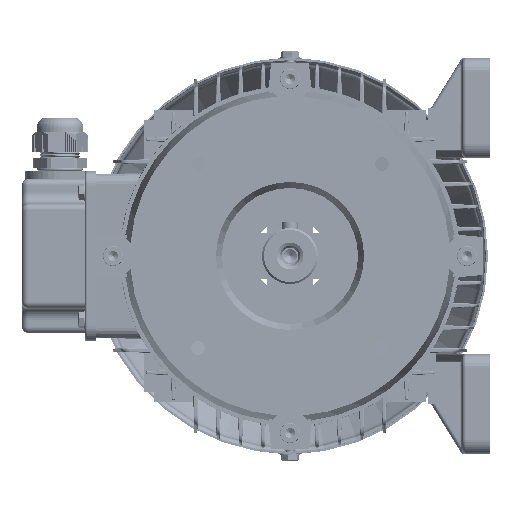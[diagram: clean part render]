
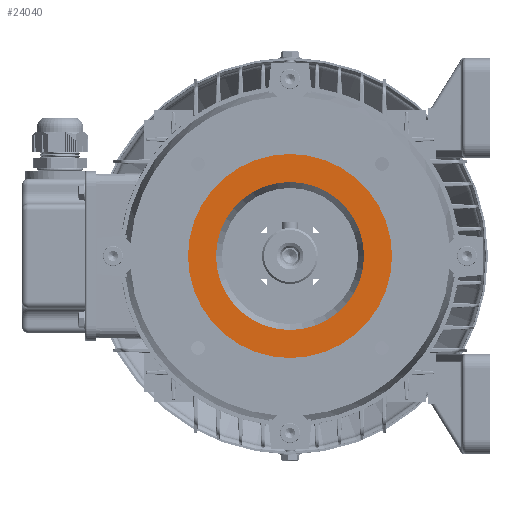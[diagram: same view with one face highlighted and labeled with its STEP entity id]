
A CAD part, left-side view. The second image highlights one B-rep face of the part: STEP entity #24040.
In plain terms, the highlighted planar face has unit normal (-1, 0, 0).
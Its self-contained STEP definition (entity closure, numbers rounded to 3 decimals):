
#1324 = EDGE_CURVE ( 'NONE', #60207, #51980, #54362, .T. ) ;
#5337 = AXIS2_PLACEMENT_3D ( 'NONE', #33558, #129376, #22804 ) ;
#6865 = AXIS2_PLACEMENT_3D ( 'NONE', #147103, #18954, #52770 ) ;
#7474 = VERTEX_POINT ( 'NONE', #21151 ) ;
#8114 = AXIS2_PLACEMENT_3D ( 'NONE', #149139, #78394, #148131 ) ;
#9600 = EDGE_LOOP ( 'NONE', ( #62553, #46346 ) ) ;
#18954 = DIRECTION ( 'NONE',  ( -1., 0., 0. ) ) ;
#21151 = CARTESIAN_POINT ( 'NONE',  ( -10.5, 0., 51. ) ) ;
#22804 = DIRECTION ( 'NONE',  ( 0., 0., 1. ) ) ;
#24040 = ADVANCED_FACE ( 'NONE', ( #93576, #82521 ), #86466, .F. ) ;
#33558 = CARTESIAN_POINT ( 'NONE',  ( -10.5, 0., 0. ) ) ;
#46346 = ORIENTED_EDGE ( 'NONE', *, *, #1324, .F. ) ;
#51561 = DIRECTION ( 'NONE',  ( 1., 0., 0. ) ) ;
#51980 = VERTEX_POINT ( 'NONE', #88360 ) ;
#52770 = DIRECTION ( 'NONE',  ( 0., 0., 1. ) ) ;
#54362 = CIRCLE ( 'NONE', #94829, 37. ) ;
#60207 = VERTEX_POINT ( 'NONE', #101620 ) ;
#62108 = CIRCLE ( 'NONE', #6865, 51. ) ;
#62553 = ORIENTED_EDGE ( 'NONE', *, *, #110208, .F. ) ;
#65999 = CIRCLE ( 'NONE', #5337, 51. ) ;
#78394 = DIRECTION ( 'NONE',  ( -1., 0., 0. ) ) ;
#81008 = DIRECTION ( 'NONE',  ( -1., 0., 0. ) ) ;
#82521 = FACE_OUTER_BOUND ( 'NONE', #134365, .T. ) ;
#86466 = PLANE ( 'NONE',  #117306 ) ;
#88360 = CARTESIAN_POINT ( 'NONE',  ( -10.5, 0., 37. ) ) ;
#88852 = EDGE_CURVE ( 'NONE', #7474, #107295, #62108, .T. ) ;
#89283 = ORIENTED_EDGE ( 'NONE', *, *, #88852, .T. ) ;
#92232 = EDGE_CURVE ( 'NONE', #107295, #7474, #65999, .T. ) ;
#93576 = FACE_BOUND ( 'NONE', #9600, .T. ) ;
#94829 = AXIS2_PLACEMENT_3D ( 'NONE', #139979, #81008, #138488 ) ;
#101620 = CARTESIAN_POINT ( 'NONE',  ( -10.5, 0., -37. ) ) ;
#107295 = VERTEX_POINT ( 'NONE', #120665 ) ;
#110011 = CARTESIAN_POINT ( 'NONE',  ( -10.5, 37., 0. ) ) ;
#110208 = EDGE_CURVE ( 'NONE', #51980, #60207, #117940, .T. ) ;
#117306 = AXIS2_PLACEMENT_3D ( 'NONE', #110011, #51561, #121762 ) ;
#117940 = CIRCLE ( 'NONE', #8114, 37. ) ;
#120665 = CARTESIAN_POINT ( 'NONE',  ( -10.5, 0., -51. ) ) ;
#121762 = DIRECTION ( 'NONE',  ( 0., 0., -1. ) ) ;
#129376 = DIRECTION ( 'NONE',  ( -1., 0., 0. ) ) ;
#134365 = EDGE_LOOP ( 'NONE', ( #89283, #142307 ) ) ;
#138488 = DIRECTION ( 'NONE',  ( 0., 0., 1. ) ) ;
#139979 = CARTESIAN_POINT ( 'NONE',  ( -10.5, 0., 0. ) ) ;
#142307 = ORIENTED_EDGE ( 'NONE', *, *, #92232, .T. ) ;
#147103 = CARTESIAN_POINT ( 'NONE',  ( -10.5, 0., 0. ) ) ;
#148131 = DIRECTION ( 'NONE',  ( 0., 0., 1. ) ) ;
#149139 = CARTESIAN_POINT ( 'NONE',  ( -10.5, 0., 0. ) ) ;
